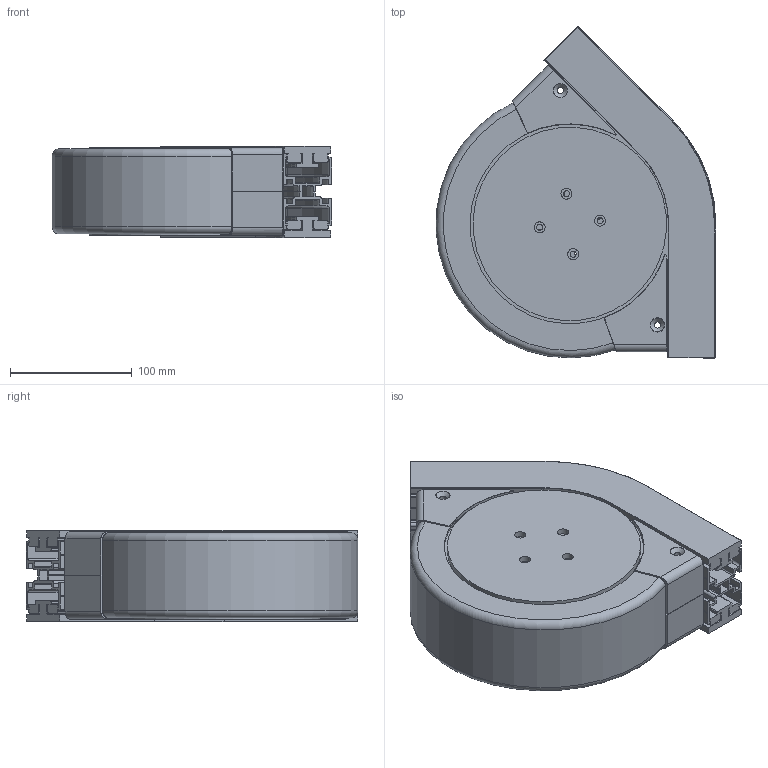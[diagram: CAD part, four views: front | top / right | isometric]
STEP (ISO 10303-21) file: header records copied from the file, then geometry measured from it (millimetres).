
FILE_DESCRIPTION((''),'2;1');
FILE_NAME('E:\Vault\Projekt\S380\3D S380\Serie 380\380-5000.stp','2010-11-30T15:58:32',('Per'),(''),'Autodesk Inventor 2011','Autodesk Inventor 2011','');
FILE_SCHEMA(('AUTOMOTIVE_DESIGN { 1 0 10303 214 1 1 1 1 }'));
Length unit declared in the file: millimetre
Products named in the file (1): 380-5000
Bounding box: 229.85 x 272.63 x 75 mm (x, y, z)
Volume: 1113603.2 mm3; surface area: 455215.9 mm2
Topology: 1 solids, 1 shells, 1063 faces, 2641 edges, 1480 vertices
Faces by surface type: cylinder 466, plane 305, torus 164, sphere 96, cone 16, bspline 16
Full cylindrical faces by diameter (mm): 5 x8, 5.2 x4, 9 x8, 25 x2, 38 x2, 159 x2
Entity records: 31830 total; most frequent: CARTESIAN_POINT 6103, DIRECTION 5704, ORIENTED_EDGE 4994, EDGE_CURVE 2497, AXIS2_PLACEMENT_3D 2221, VERTEX_POINT 1474, VECTOR 1262, LINE 1262
